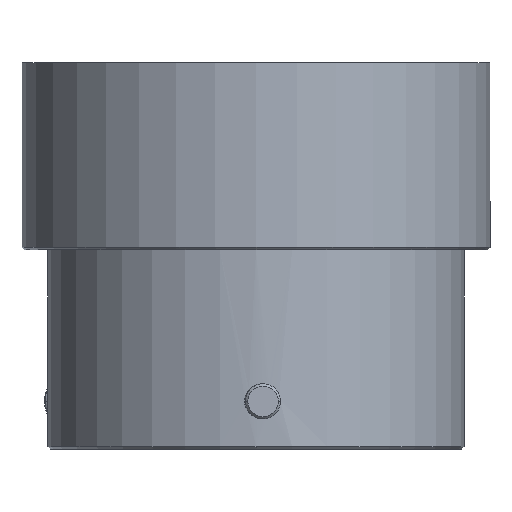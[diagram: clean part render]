
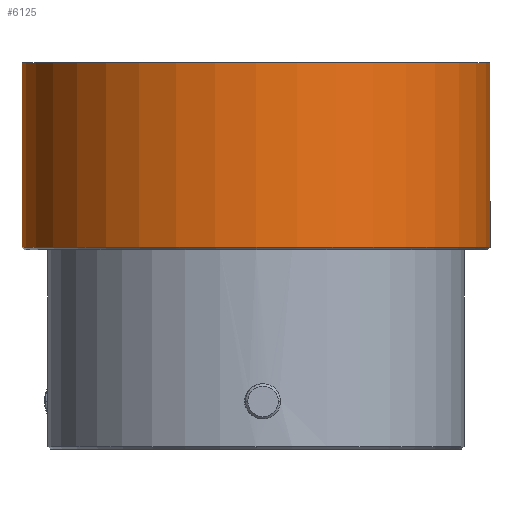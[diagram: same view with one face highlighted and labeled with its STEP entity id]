
A CAD part, front view. The second image highlights one B-rep face of the part: STEP entity #6125.
In plain terms, the highlighted cylindrical face has radius 12.471 mm (diameter 24.943 mm), a partial arc.
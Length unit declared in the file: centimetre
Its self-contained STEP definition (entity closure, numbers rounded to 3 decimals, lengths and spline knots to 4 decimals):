
#552 = EDGE_LOOP ( 'NONE', ( #6276, #6284, #6302, #6298 ) ) ;
#667 = EDGE_CURVE ( 'NONE', #1676, #1682, #2207, .T. ) ;
#669 = EDGE_CURVE ( 'NONE', #1679, #1683, #2212, .T. ) ;
#1016 = EDGE_CURVE ( 'NONE', #1683, #1682, #3566, .T. ) ;
#1017 = EDGE_CURVE ( 'NONE', #1679, #1676, #3567, .T. ) ;
#1676 = VERTEX_POINT ( 'NONE', #5560 ) ;
#1679 = VERTEX_POINT ( 'NONE', #5563 ) ;
#1682 = VERTEX_POINT ( 'NONE', #5566 ) ;
#1683 = VERTEX_POINT ( 'NONE', #5567 ) ;
#2207 = LINE ( 'NONE', #2492, #2211 ) ;
#2211 = VECTOR ( 'NONE', #2490, 100. ) ;
#2212 = LINE ( 'NONE', #2496, #2214 ) ;
#2214 = VECTOR ( 'NONE', #2491, 100. ) ;
#2490 = DIRECTION ( 'NONE',  ( 0., 0., -1. ) ) ;
#2491 = DIRECTION ( 'NONE',  ( 0., 0., -1. ) ) ;
#2492 = CARTESIAN_POINT ( 'NONE',  ( 1.2469, 0.02, 0.0135 ) ) ;
#2496 = CARTESIAN_POINT ( 'NONE',  ( -1.2474, 0.02, 0.0135 ) ) ;
#3065 = AXIS2_PLACEMENT_3D ( 'NONE', #4094, #4095, #4096 ) ;
#3066 = AXIS2_PLACEMENT_3D ( 'NONE', #4099, #4100, #4101 ) ;
#3566 = CIRCLE ( 'NONE', #3065, 1.2471 ) ;
#3567 = CIRCLE ( 'NONE', #3066, 1.2471 ) ;
#4094 = CARTESIAN_POINT ( 'NONE',  ( -0.0003, 0.02, -0.9695 ) ) ;
#4095 = DIRECTION ( 'NONE',  ( 0., 0., 1. ) ) ;
#4096 = DIRECTION ( 'NONE',  ( -1., 0., 0. ) ) ;
#4099 = CARTESIAN_POINT ( 'NONE',  ( -0.0003, 0.02, 0.0135 ) ) ;
#4100 = DIRECTION ( 'NONE',  ( 0., 0., 1. ) ) ;
#4101 = DIRECTION ( 'NONE',  ( -1., 0., 0. ) ) ;
#5560 = CARTESIAN_POINT ( 'NONE',  ( 1.2469, 0.02, 0.0135 ) ) ;
#5563 = CARTESIAN_POINT ( 'NONE',  ( -1.2474, 0.02, 0.0135 ) ) ;
#5566 = CARTESIAN_POINT ( 'NONE',  ( 1.2469, 0.02, -0.9695 ) ) ;
#5567 = CARTESIAN_POINT ( 'NONE',  ( -1.2474, 0.02, -0.9695 ) ) ;
#6125 = ADVANCED_FACE ( 'NONE', ( #8884 ), #8890, .T. ) ;
#6276 = ORIENTED_EDGE ( 'NONE', *, *, #667, .F. ) ;
#6284 = ORIENTED_EDGE ( 'NONE', *, *, #1017, .F. ) ;
#6298 = ORIENTED_EDGE ( 'NONE', *, *, #1016, .T. ) ;
#6302 = ORIENTED_EDGE ( 'NONE', *, *, #669, .T. ) ;
#8540 = AXIS2_PLACEMENT_3D ( 'NONE', #8709, #8713, #8712 ) ;
#8709 = CARTESIAN_POINT ( 'NONE',  ( -0.0003, 0.02, 0.0135 ) ) ;
#8712 = DIRECTION ( 'NONE',  ( -1., 0., 0. ) ) ;
#8713 = DIRECTION ( 'NONE',  ( 0., 0., -1. ) ) ;
#8884 = FACE_OUTER_BOUND ( 'NONE', #552, .T. ) ;
#8890 = CYLINDRICAL_SURFACE ( 'NONE', #8540, 1.2471 ) ;
